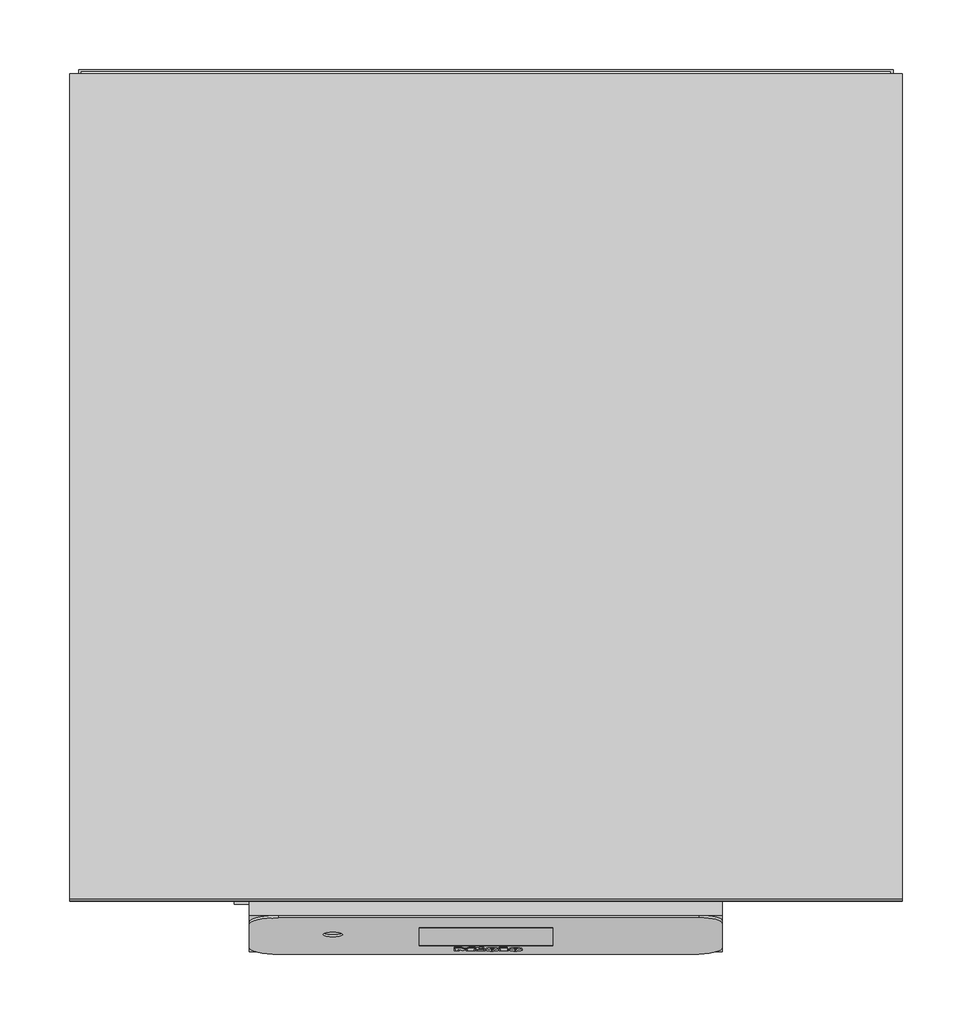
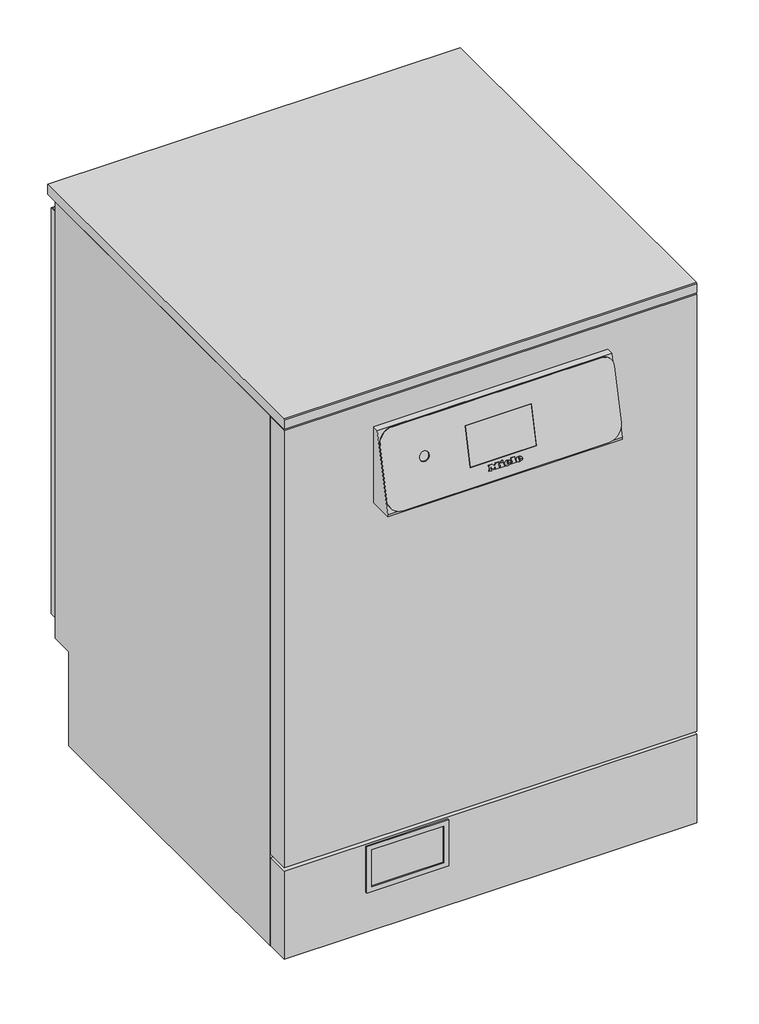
# Not in any storey: 1 proxy.
"""IFC4 building model written with IfcOpenShell, lengths in millimetres."""

from ifc_helpers import new_model, si_unit, origin, place, context, project, spatial, transform, mapped, element, save
from components import specialty_equipment_d150170b

model = new_model("IFC4")

# Units and contexts
model_context = context("Model", 3, world=origin())
ifc_project = project(units=[si_unit("LENGTHUNIT", "METRE", prefix="MILLI")], contexts=[model_context])

# Site, building
site = spatial("IfcSite", under=ifc_project)
building = spatial("IfcBuilding", under=site)

# Proxy
placement = place(None, origin())
specialty_equipment_shape = specialty_equipment_d150170b(model_context)
element("IfcBuildingElementProxy", 1, Name="12065800_NWE_PFD405_LW : 61040501_NWE_12065800_PFD405_LW", ObjectType="12065800_NWE_PFD405_LW : 61040501_NWE_12065800_PFD405_LW", at=placement, inside=building, context=model_context, shape_type="MappedRepresentation", body=[
    mapped(specialty_equipment_shape, transform((0.0, 0.0, 0.0), x_axis=(1.0, 0.0, 0.0), y_axis=(0.0, 1.0, 0.0), z_axis=(0.0, 0.0, 1.0))),
])

save(model, "model.ifc")
